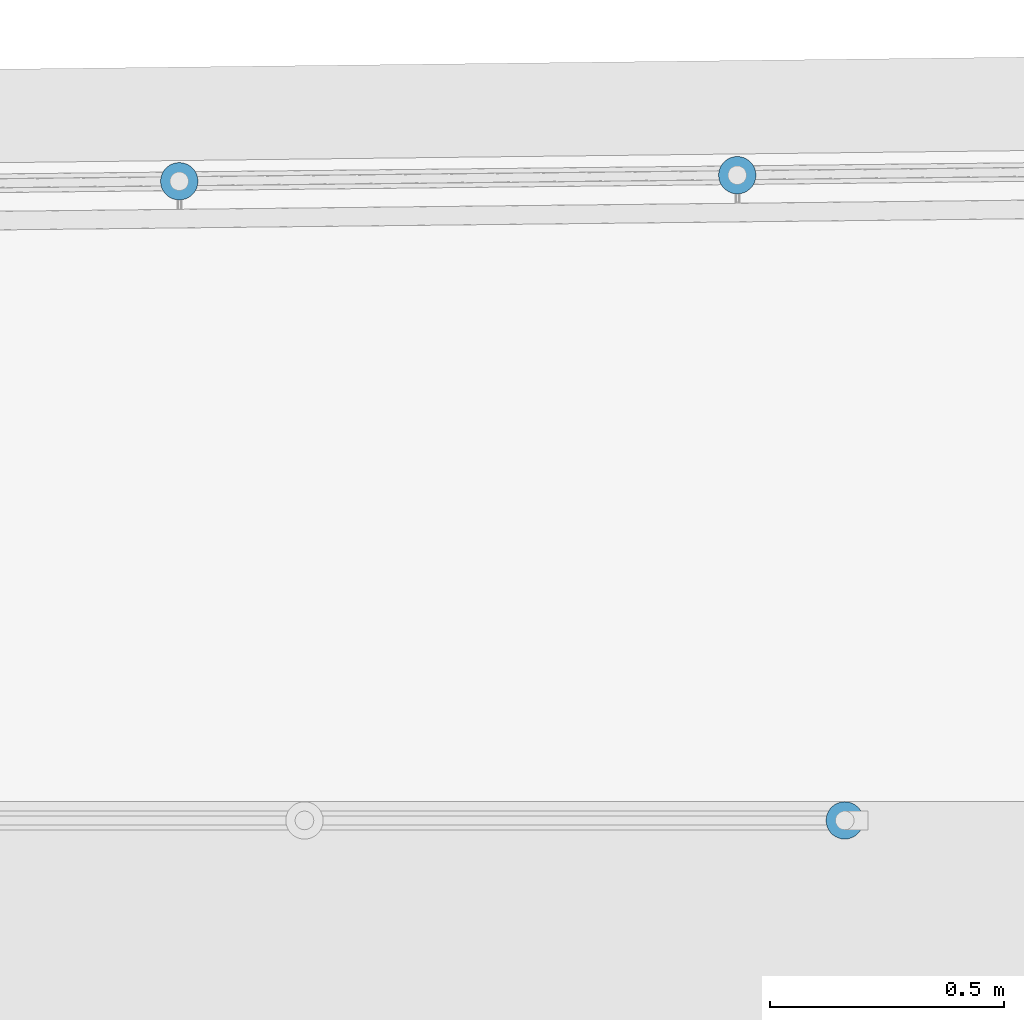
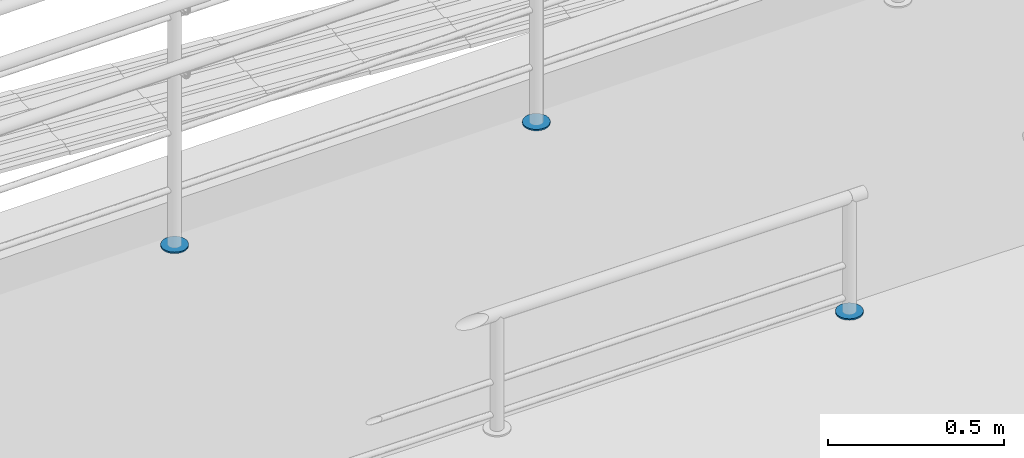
# One storey, part 99 of 237: 3 building element parts, 2 elements without a shape of their own.
"""IFC2X3 building model written with IfcOpenShell, lengths in millimetres."""

from ifc_helpers import new_model, entity, si_unit, converted_unit, derived_unit, money_unit, direction, frame, origin_with_axes, place, context, subcontext, project, spatial, faceted_brep, material, type_object, element, aggregate, save


model = new_model("IFC2X3")

# Units and contexts
model_context = context("Model", 3, precision=0.01, world=origin_with_axes(), true_north=direction((0.0, 1.0)))
body_context = subcontext(model_context, "Body", "Model", "MODEL_VIEW")
ifc_project = project(units=[si_unit("LENGTHUNIT", "METRE", prefix="MILLI"), si_unit("AREAUNIT", "SQUARE_METRE"), si_unit("VOLUMEUNIT", "CUBIC_METRE"), converted_unit("PLANEANGLEUNIT", "DEGREE", entity("IfcPlaneAngleMeasure", 0.0174532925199), si_unit("PLANEANGLEUNIT", "RADIAN"), dimensions=[0, 0, 0, 0, 0, 0, 0]), money_unit("USD"), converted_unit("TIMEUNIT", "Year", entity("IfcTimeMeasure", 31556926.0), si_unit("TIMEUNIT", "SECOND"), dimensions=[0, 0, 1, 0, 0, 0, 0]), si_unit("MASSUNIT", "GRAM", prefix="KILO"), si_unit("THERMODYNAMICTEMPERATUREUNIT", "DEGREE_CELSIUS"), si_unit("LUMINOUSINTENSITYUNIT", "LUMEN"), si_unit("ENERGYUNIT", "JOULE", prefix="MEGA"), derived_unit("THERMALCONDUCTANCEUNIT", [(si_unit("POWERUNIT", "WATT"), 1), (si_unit("LENGTHUNIT", "METRE"), -1), (si_unit("THERMODYNAMICTEMPERATUREUNIT", "KELVIN"), -1)]), derived_unit("SPECIFICHEATCAPACITYUNIT", [(si_unit("ENERGYUNIT", "JOULE"), 1), (si_unit("MASSUNIT", "GRAM", prefix="KILO"), -1), (si_unit("THERMODYNAMICTEMPERATUREUNIT", "KELVIN"), -1)]), derived_unit("MASSDENSITYUNIT", [(si_unit("MASSUNIT", "GRAM", prefix="KILO"), 1), (si_unit("VOLUMEUNIT", "CUBIC_METRE"), -1)])], contexts=[model_context])

# Site, building, storey
site_placement = place(None, origin_with_axes())
site = spatial("IfcSite", under=ifc_project, at=site_placement, Name="Local", CompositionType="ELEMENT")
building_placement = place(site_placement, origin_with_axes())
building = spatial("IfcBuilding", under=site, at=building_placement, Name="Construção", CompositionType="ELEMENT")
storey_placement = place(building_placement, origin_with_axes())
storey = spatial("IfcBuildingStorey", under=building, at=storey_placement, Name="Pavimento Térreo", CompositionType="ELEMENT", Elevation=0.0)

# Railing, building element part
railing_type = type_object("IfcRailingType", Name="Tipo de Guarda-Corpo", PredefinedType="NOTDEFINED")
railing_1_placement = place(storey_placement, frame((57512.4440926, 33894.9362539, -1887.10818411), z_axis=(0.0, 0.0, 1.0), x_axis=(-1.0, 0.0, 0.0)))
railing_1 = element("IfcRailing", 1, at=railing_1_placement, inside=storey, type_object=railing_type, Name="Guarda-Corpo - 002", PredefinedType="NOTDEFINED")
ifc_material = material(Name="Alumínio")
building_element_part_1_placement = place(railing_1_placement, origin_with_axes())
building_element_part_1 = element("IfcBuildingElementPart", 2, at=building_element_part_1_placement, material=ifc_material, Name="Alumínio", context=body_context, shape_type="Brep", body=[
    faceted_brep([(80.0, 40.0, 630.0), (79.3923101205, 46.9459271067, 630.0), (79.3923101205, 46.9459271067, 635.0), (80.0, 40.0, 635.0), (79.3923101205, 33.0540728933, 630.0), (77.5877048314, 26.319194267, 630.0), (74.6410161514, 20.0, 630.0), (70.6417777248, 14.2884956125, 630.0), (65.7115043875, 9.35822227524, 630.0), (60.0, 5.35898384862, 630.0), (53.680805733, 2.41229516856, 630.0), (46.9459271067, 0.607689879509, 630.0), (40.0, 0.0, 630.0), (33.0540728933, 0.607689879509, 630.0), (26.319194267, 2.41229516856, 630.0), (20.0, 5.35898384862, 630.0), (14.2884956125, 9.35822227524, 630.0), (9.35822227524, 14.2884956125, 630.0), (5.35898384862, 20.0, 630.0), (2.41229516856, 26.319194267, 630.0), (0.607689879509, 33.0540728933, 630.0), (0.0, 40.0, 630.0), (0.607689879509, 46.9459271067, 630.0), (2.41229516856, 53.680805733, 630.0), (5.35898384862, 60.0, 630.0), (9.35822227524, 65.7115043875, 630.0), (14.2884956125, 70.6417777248, 630.0), (20.0, 74.6410161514, 630.0), (26.319194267, 77.5877048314, 630.0), (33.0540728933, 79.3923101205, 630.0), (40.0, 80.0, 630.0), (46.9459271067, 79.3923101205, 630.0), (53.680805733, 77.5877048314, 630.0), (60.0, 74.6410161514, 630.0), (65.7115043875, 70.6417777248, 630.0), (70.6417777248, 65.7115043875, 630.0), (74.6410161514, 60.0, 630.0), (77.5877048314, 53.680805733, 630.0), (77.5877048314, 53.680805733, 635.0), (74.6410161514, 60.0, 635.0), (70.6417777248, 65.7115043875, 635.0), (65.7115043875, 70.6417777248, 635.0), (60.0, 74.6410161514, 635.0), (53.680805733, 77.5877048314, 635.0), (46.9459271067, 79.3923101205, 635.0), (40.0, 80.0, 635.0), (33.0540728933, 79.3923101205, 635.0), (26.319194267, 77.5877048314, 635.0), (20.0, 74.6410161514, 635.0), (14.2884956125, 70.6417777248, 635.0), (9.35822227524, 65.7115043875, 635.0), (5.35898384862, 60.0, 635.0), (2.41229516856, 53.680805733, 635.0), (0.607689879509, 46.9459271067, 635.0), (0.0, 40.0, 635.0), (0.607689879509, 33.0540728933, 635.0), (2.41229516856, 26.319194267, 635.0), (5.35898384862, 20.0, 635.0), (9.35822227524, 14.2884956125, 635.0), (14.2884956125, 9.35822227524, 635.0), (20.0, 5.35898384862, 635.0), (26.319194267, 2.41229516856, 635.0), (33.0540728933, 0.607689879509, 635.0), (40.0, 0.0, 635.0), (46.9459271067, 0.607689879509, 635.0), (53.680805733, 2.41229516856, 635.0), (60.0, 5.35898384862, 635.0), (65.7115043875, 9.35822227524, 635.0), (70.6417777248, 14.2884956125, 635.0), (74.6410161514, 20.0, 635.0), (77.5877048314, 26.319194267, 635.0), (79.3923101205, 33.0540728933, 635.0)], [[[0, 1, 2, 3]], [[0, 4, 5, 6, 7, 8, 9, 10, 11, 12, 13, 14, 15, 16, 17, 18, 19, 20, 21, 22, 23, 24, 25, 26, 27, 28, 29, 30, 31, 32, 33, 34, 35, 36, 37, 1]], [[1, 37, 38, 2]], [[3, 2, 38, 39, 40, 41, 42, 43, 44, 45, 46, 47, 48, 49, 50, 51, 52, 53, 54, 55, 56, 57, 58, 59, 60, 61, 62, 63, 64, 65, 66, 67, 68, 69, 70, 71]], [[4, 0, 3, 71]], [[5, 4, 71, 70]], [[6, 5, 70, 69]], [[7, 6, 69, 68]], [[8, 7, 68, 67]], [[9, 8, 67, 66]], [[10, 9, 66, 65]], [[11, 10, 65, 64]], [[12, 11, 64, 63]], [[13, 12, 63, 62]], [[14, 13, 62, 61]], [[15, 14, 61, 60]], [[16, 15, 60, 59]], [[17, 16, 59, 58]], [[18, 17, 58, 57]], [[19, 18, 57, 56]], [[20, 19, 56, 55]], [[21, 20, 55, 54]], [[22, 21, 54, 53]], [[23, 22, 53, 52]], [[24, 23, 52, 51]], [[25, 24, 51, 50]], [[26, 25, 50, 49]], [[27, 26, 49, 48]], [[28, 27, 48, 47]], [[29, 28, 47, 46]], [[30, 29, 46, 45]], [[31, 30, 45, 44]], [[32, 31, 44, 43]], [[33, 32, 43, 42]], [[34, 33, 42, 41]], [[35, 34, 41, 40]], [[36, 35, 40, 39]], [[37, 36, 39, 38]]]),
])
aggregate(railing_1, [building_element_part_1])

# Railing, building element parts
railing_2_placement = place(storey_placement, frame((70326.6870103, 28675.2458388, -1357.10819655), z_axis=(0.0, 0.0, 1.0), x_axis=(1.0, 0.0, 0.0)))
railing_2 = element("IfcRailing", 3, at=railing_2_placement, inside=storey, type_object=railing_type, Name="Guarda-Corpo - 004", PredefinedType="NOTDEFINED")
building_element_part_2_placement = place(railing_2_placement, origin_with_axes())
building_element_part_2 = element("IfcBuildingElementPart", 4, at=building_element_part_2_placement, material=ifc_material, Name="Alumínio", context=body_context, shape_type="Brep", body=[
    faceted_brep([(-13124.3364364, 6560.61197193, 0.0), (-13123.6532383, 6553.6730649, 0.0), (-13123.6532383, 6553.6730649, 5.0), (-13124.3364364, 6560.61197193, 5.0), (-13123.8043266, 6567.56409747, 0.0), (-13122.0730768, 6574.3182047, 0.0), (-13119.1952902, 6580.6690735, 0.0), (-13115.2584068, 6586.42373593, 0.0), (-13110.3820469, 6591.40733948, 0.0), (-13104.7143762, 6595.46845988, 0.0), (-13098.4276039, 6598.48370205, 0.0), (-13091.7127506, 6600.36144937, 0.0), (-13084.7738436, 6601.04464744, 0.0), (-13077.821718, 6600.51253764, 0.0), (-13071.0676108, 6598.78128785, 0.0), (-13064.716742, 6595.90350123, 0.0), (-13058.9620796, 6591.96661785, 0.0), (-13053.978476, 6587.09025794, 0.0), (-13049.9173556, 6581.42258722, 0.0), (-13046.9021134, 6575.13581499, 0.0), (-13045.0243661, 6568.42096165, 0.0), (-13044.341168, 6561.48205462, 0.0), (-13044.8732778, 6554.52992908, 0.0), (-13046.6045276, 6547.77582185, 0.0), (-13049.4823143, 6541.42495305, 0.0), (-13053.4191976, 6535.67029062, 0.0), (-13058.2955576, 6530.68668707, 0.0), (-13063.9632283, 6526.62556667, 0.0), (-13070.2500005, 6523.6103245, 0.0), (-13076.9648538, 6521.73257718, 0.0), (-13083.9037609, 6521.04937911, 0.0), (-13090.8558864, 6521.58148891, 0.0), (-13097.6099936, 6523.31273869, 0.0), (-13103.9608624, 6526.19052532, 0.0), (-13109.7155249, 6530.1274087, 0.0), (-13114.6991284, 6535.00376861, 0.0), (-13118.7602488, 6540.67143933, 0.0), (-13121.775491, 6546.95821156, 0.0), (-13121.775491, 6546.95821156, 5.0), (-13118.7602488, 6540.67143933, 5.0), (-13114.6991284, 6535.00376861, 5.0), (-13109.7155249, 6530.1274087, 5.0), (-13103.9608624, 6526.19052532, 5.0), (-13097.6099936, 6523.31273869, 5.0), (-13090.8558864, 6521.58148891, 5.0), (-13083.9037609, 6521.04937911, 5.0), (-13076.9648538, 6521.73257718, 5.0), (-13070.2500005, 6523.6103245, 5.0), (-13063.9632283, 6526.62556667, 5.0), (-13058.2955576, 6530.68668707, 5.0), (-13053.4191976, 6535.67029062, 5.0), (-13049.4823143, 6541.42495305, 5.0), (-13046.6045276, 6547.77582185, 5.0), (-13044.8732778, 6554.52992908, 5.0), (-13044.341168, 6561.48205462, 5.0), (-13045.0243661, 6568.42096165, 5.0), (-13046.9021134, 6575.13581499, 5.0), (-13049.9173556, 6581.42258722, 5.0), (-13053.978476, 6587.09025794, 5.0), (-13058.9620796, 6591.96661785, 5.0), (-13064.716742, 6595.90350123, 5.0), (-13071.0676108, 6598.78128785, 5.0), (-13077.821718, 6600.51253764, 5.0), (-13084.7738436, 6601.04464744, 5.0), (-13091.7127506, 6600.36144937, 5.0), (-13098.4276039, 6598.48370205, 5.0), (-13104.7143762, 6595.46845988, 5.0), (-13110.3820469, 6591.40733948, 5.0), (-13115.2584068, 6586.42373593, 5.0), (-13119.1952902, 6580.6690735, 5.0), (-13122.0730768, 6574.3182047, 5.0), (-13123.8043266, 6567.56409747, 5.0)], [[[0, 1, 2, 3]], [[0, 4, 5, 6, 7, 8, 9, 10, 11, 12, 13, 14, 15, 16, 17, 18, 19, 20, 21, 22, 23, 24, 25, 26, 27, 28, 29, 30, 31, 32, 33, 34, 35, 36, 37, 1]], [[1, 37, 38, 2]], [[3, 2, 38, 39, 40, 41, 42, 43, 44, 45, 46, 47, 48, 49, 50, 51, 52, 53, 54, 55, 56, 57, 58, 59, 60, 61, 62, 63, 64, 65, 66, 67, 68, 69, 70, 71]], [[4, 0, 3, 71]], [[5, 4, 71, 70]], [[6, 5, 70, 69]], [[7, 6, 69, 68]], [[8, 7, 68, 67]], [[9, 8, 67, 66]], [[10, 9, 66, 65]], [[11, 10, 65, 64]], [[12, 11, 64, 63]], [[13, 12, 63, 62]], [[14, 13, 62, 61]], [[15, 14, 61, 60]], [[16, 15, 60, 59]], [[17, 16, 59, 58]], [[18, 17, 58, 57]], [[19, 18, 57, 56]], [[20, 19, 56, 55]], [[21, 20, 55, 54]], [[22, 21, 54, 53]], [[23, 22, 53, 52]], [[24, 23, 52, 51]], [[25, 24, 51, 50]], [[26, 25, 50, 49]], [[27, 26, 49, 48]], [[28, 27, 48, 47]], [[29, 28, 47, 46]], [[30, 29, 46, 45]], [[31, 30, 45, 44]], [[32, 31, 44, 43]], [[33, 32, 43, 42]], [[34, 33, 42, 41]], [[35, 34, 41, 40]], [[36, 35, 40, 39]], [[37, 36, 39, 38]]]),
])
building_element_part_3_placement = place(railing_2_placement, origin_with_axes())
building_element_part_3 = element("IfcBuildingElementPart", 5, at=building_element_part_3_placement, material=ifc_material, Name="Alumínio", context=body_context, shape_type="Brep", body=[
    faceted_brep([(-14318.9736631, 6547.61828872, 0.0), (-14318.290465, 6540.67938169, 0.0), (-14318.290465, 6540.67938169, 5.0), (-14318.9736631, 6547.61828872, 5.0), (-14318.4415533, 6554.57041426, 0.0), (-14316.7103035, 6561.32452149, 0.0), (-14313.8325169, 6567.67539029, 0.0), (-14309.8956335, 6573.43005272, 0.0), (-14305.0192736, 6578.41365627, 0.0), (-14299.3516028, 6582.47477667, 0.0), (-14293.0648306, 6585.49001884, 0.0), (-14286.3499773, 6587.36776616, 0.0), (-14279.4110702, 6588.05096423, 0.0), (-14272.4589447, 6587.51885443, 0.0), (-14265.7048375, 6585.78760464, 0.0), (-14259.3539687, 6582.90981802, 0.0), (-14253.5993062, 6578.97293464, 0.0), (-14248.6157027, 6574.09657473, 0.0), (-14244.5545823, 6568.428904, 0.0), (-14241.5393401, 6562.14213178, 0.0), (-14239.6615928, 6555.42727844, 0.0), (-14238.9783947, 6548.48837141, 0.0), (-14239.5105045, 6541.53624587, 0.0), (-14241.2417543, 6534.78213864, 0.0), (-14244.1195409, 6528.43126984, 0.0), (-14248.0564243, 6522.67660741, 0.0), (-14252.9327842, 6517.69300386, 0.0), (-14258.600455, 6513.63188346, 0.0), (-14264.8872272, 6510.61664129, 0.0), (-14271.6020805, 6508.73889397, 0.0), (-14278.5409876, 6508.0556959, 0.0), (-14285.4931131, 6508.5878057, 0.0), (-14292.2472203, 6510.31905548, 0.0), (-14298.5980891, 6513.19684211, 0.0), (-14304.3527516, 6517.13372548, 0.0), (-14309.3363551, 6522.0100854, 0.0), (-14313.3974755, 6527.67775612, 0.0), (-14316.4127177, 6533.96452835, 0.0), (-14316.4127177, 6533.96452835, 5.0), (-14313.3974755, 6527.67775612, 5.0), (-14309.3363551, 6522.0100854, 5.0), (-14304.3527516, 6517.13372548, 5.0), (-14298.5980891, 6513.19684211, 5.0), (-14292.2472203, 6510.31905548, 5.0), (-14285.4931131, 6508.5878057, 5.0), (-14278.5409876, 6508.0556959, 5.0), (-14271.6020805, 6508.73889397, 5.0), (-14264.8872272, 6510.61664129, 5.0), (-14258.600455, 6513.63188346, 5.0), (-14252.9327842, 6517.69300386, 5.0), (-14248.0564243, 6522.67660741, 5.0), (-14244.1195409, 6528.43126984, 5.0), (-14241.2417543, 6534.78213864, 5.0), (-14239.5105045, 6541.53624587, 5.0), (-14238.9783947, 6548.48837141, 5.0), (-14239.6615928, 6555.42727844, 5.0), (-14241.5393401, 6562.14213178, 5.0), (-14244.5545823, 6568.428904, 5.0), (-14248.6157027, 6574.09657473, 5.0), (-14253.5993062, 6578.97293464, 5.0), (-14259.3539687, 6582.90981802, 5.0), (-14265.7048375, 6585.78760464, 5.0), (-14272.4589447, 6587.51885443, 5.0), (-14279.4110702, 6588.05096423, 5.0), (-14286.3499773, 6587.36776616, 5.0), (-14293.0648306, 6585.49001884, 5.0), (-14299.3516028, 6582.47477667, 5.0), (-14305.0192736, 6578.41365627, 5.0), (-14309.8956335, 6573.43005272, 5.0), (-14313.8325169, 6567.67539029, 5.0), (-14316.7103035, 6561.32452149, 5.0), (-14318.4415533, 6554.57041426, 5.0)], [[[0, 1, 2, 3]], [[0, 4, 5, 6, 7, 8, 9, 10, 11, 12, 13, 14, 15, 16, 17, 18, 19, 20, 21, 22, 23, 24, 25, 26, 27, 28, 29, 30, 31, 32, 33, 34, 35, 36, 37, 1]], [[1, 37, 38, 2]], [[3, 2, 38, 39, 40, 41, 42, 43, 44, 45, 46, 47, 48, 49, 50, 51, 52, 53, 54, 55, 56, 57, 58, 59, 60, 61, 62, 63, 64, 65, 66, 67, 68, 69, 70, 71]], [[4, 0, 3, 71]], [[5, 4, 71, 70]], [[6, 5, 70, 69]], [[7, 6, 69, 68]], [[8, 7, 68, 67]], [[9, 8, 67, 66]], [[10, 9, 66, 65]], [[11, 10, 65, 64]], [[12, 11, 64, 63]], [[13, 12, 63, 62]], [[14, 13, 62, 61]], [[15, 14, 61, 60]], [[16, 15, 60, 59]], [[17, 16, 59, 58]], [[18, 17, 58, 57]], [[19, 18, 57, 56]], [[20, 19, 56, 55]], [[21, 20, 55, 54]], [[22, 21, 54, 53]], [[23, 22, 53, 52]], [[24, 23, 52, 51]], [[25, 24, 51, 50]], [[26, 25, 50, 49]], [[27, 26, 49, 48]], [[28, 27, 48, 47]], [[29, 28, 47, 46]], [[30, 29, 46, 45]], [[31, 30, 45, 44]], [[32, 31, 44, 43]], [[33, 32, 43, 42]], [[34, 33, 42, 41]], [[35, 34, 41, 40]], [[36, 35, 40, 39]], [[37, 36, 39, 38]]]),
])
aggregate(railing_2, [building_element_part_2, building_element_part_3])

save(model, "model.ifc")
